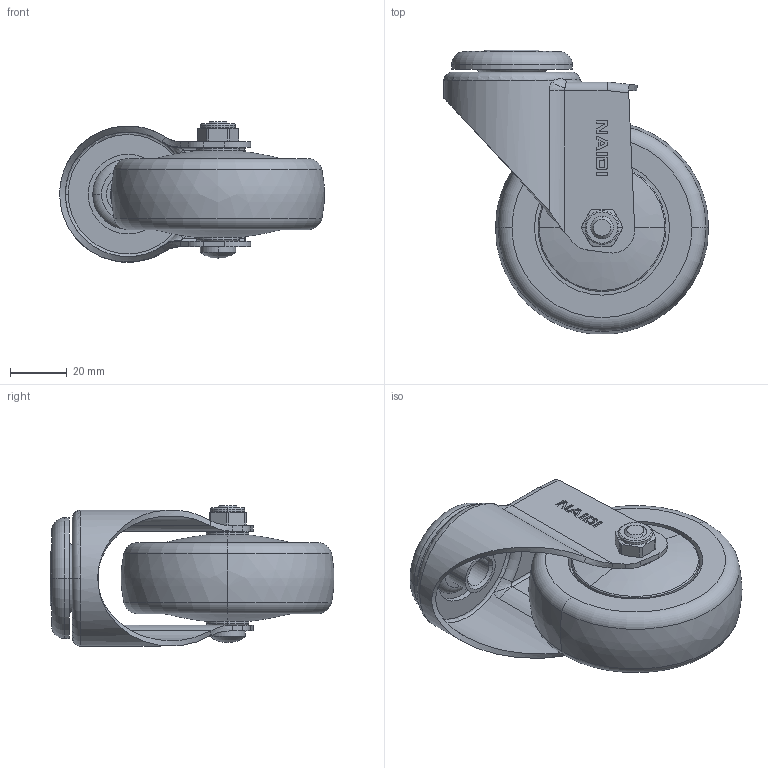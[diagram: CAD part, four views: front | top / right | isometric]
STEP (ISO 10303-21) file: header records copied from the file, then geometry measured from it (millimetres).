
FILE_DESCRIPTION((''),'2;1');
FILE_NAME('C34173_ASM','2024-09-25T',('Lenovo'),(''),'PRO/ENGINEER BY PARAMETRIC TECHNOLOGY CORPORATION, 2010280','PRO/ENGINEER BY PARAMETRIC TECHNOLOGY CORPORATION, 2010280','');
FILE_SCHEMA(('CONFIG_CONTROL_DESIGN'));
Length unit declared in the file: millimetre
Products named in the file (8): C3413-311; 360-27; C3410-211; C343-967; 373-69; 350-33A; 300-34; C34173_ASM
Assembly tree (8 placements, depth 2):
  C34173_ASM
    C3413-311
    360-27
    C3410-211
    C343-967
    373-69  x2
    350-33A
    300-34
Bounding box: 93.1 x 99.9 x 49.48 mm (x, y, z)
Volume: 109171.3 mm3; surface area: 47721.3 mm2
Topology: 8 solids, 8 shells, 275 faces, 628 edges, 385 vertices
Faces by surface type: plane 105, cylinder 89, torus 40, bspline 21, cone 18, sphere 2
Entity records: 8707 total; most frequent: CARTESIAN_POINT 2886, DIRECTION 1242, ORIENTED_EDGE 1132, EDGE_CURVE 566, AXIS2_PLACEMENT_3D 482, VERTEX_POINT 351, EDGE_LOOP 279, VECTOR 278
